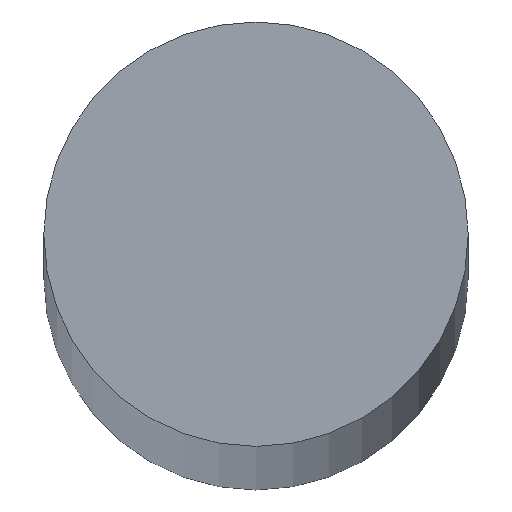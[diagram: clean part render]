
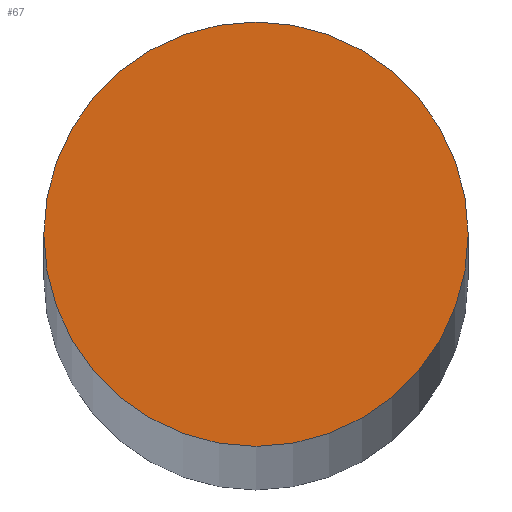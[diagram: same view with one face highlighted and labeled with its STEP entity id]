
A CAD part, top view. The second image highlights one B-rep face of the part: STEP entity #67.
In plain terms, the highlighted planar face has unit normal (0, 0, 1).
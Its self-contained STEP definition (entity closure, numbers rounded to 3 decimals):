
#1 = DIRECTION ( 'NONE',  ( 1., 0., 0. ) ) ;
#14 = CIRCLE ( 'NONE', #95, 8.5 ) ;
#23 = VERTEX_POINT ( 'NONE', #32 ) ;
#32 = CARTESIAN_POINT ( 'NONE',  ( 8.5, 0., 1000. ) ) ;
#34 = CIRCLE ( 'NONE', #97, 8.5 ) ;
#36 = CARTESIAN_POINT ( 'NONE',  ( 0., 0., 1000. ) ) ;
#37 = PLANE ( 'NONE',  #60 ) ;
#49 = DIRECTION ( 'NONE',  ( 0., 0., 1. ) ) ;
#51 = DIRECTION ( 'NONE',  ( 1., 0., 0. ) ) ;
#58 = DIRECTION ( 'NONE',  ( 1., 0., 0. ) ) ;
#60 = AXIS2_PLACEMENT_3D ( 'NONE', #82, #119, #58 ) ;
#61 = FACE_OUTER_BOUND ( 'NONE', #63, .T. ) ;
#63 = EDGE_LOOP ( 'NONE', ( #113, #77 ) ) ;
#67 = ADVANCED_FACE ( 'NONE', ( #61 ), #37, .T. ) ;
#77 = ORIENTED_EDGE ( 'NONE', *, *, #104, .T. ) ;
#80 = CARTESIAN_POINT ( 'NONE',  ( -8.5, 0., 1000. ) ) ;
#82 = CARTESIAN_POINT ( 'NONE',  ( 0., 0., 1000. ) ) ;
#92 = DIRECTION ( 'NONE',  ( 0., 0., 1. ) ) ;
#95 = AXIS2_PLACEMENT_3D ( 'NONE', #36, #49, #51 ) ;
#97 = AXIS2_PLACEMENT_3D ( 'NONE', #109, #92, #1 ) ;
#104 = EDGE_CURVE ( 'NONE', #23, #115, #34, .T. ) ;
#109 = CARTESIAN_POINT ( 'NONE',  ( 0., 0., 1000. ) ) ;
#110 = EDGE_CURVE ( 'NONE', #115, #23, #14, .T. ) ;
#113 = ORIENTED_EDGE ( 'NONE', *, *, #110, .T. ) ;
#115 = VERTEX_POINT ( 'NONE', #80 ) ;
#119 = DIRECTION ( 'NONE',  ( 0., 0., 1. ) ) ;
